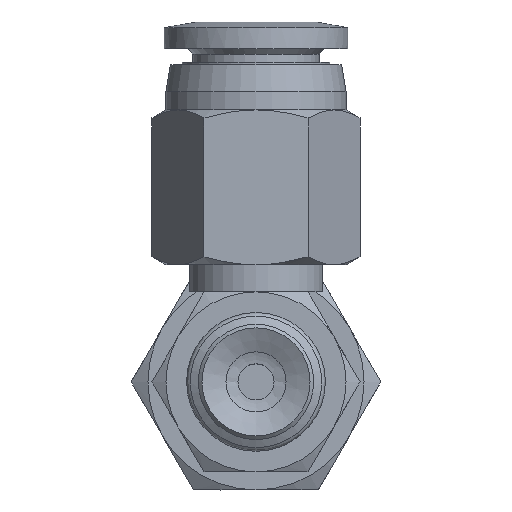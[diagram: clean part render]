
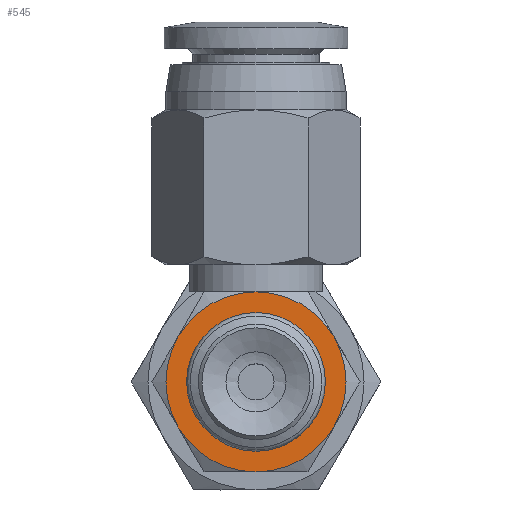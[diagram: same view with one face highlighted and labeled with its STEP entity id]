
A CAD part, front view. The second image highlights one B-rep face of the part: STEP entity #545.
In plain terms, the highlighted planar face has unit normal (0, -1, 0).
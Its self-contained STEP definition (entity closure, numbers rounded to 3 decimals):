
#545=ADVANCED_FACE('',(#831,#832),#833,.T.);
#831=FACE_BOUND('',#1239,.T.);
#832=FACE_OUTER_BOUND('',#1240,.T.);
#833=PLANE('',#1241);
#1239=EDGE_LOOP('',(#2301));
#1240=EDGE_LOOP('',(#2302,#2303,#2304,#2305,#2306,#2307));
#1241=AXIS2_PLACEMENT_3D('',#2308,#2309,#2310);
#2301=ORIENTED_EDGE('',*,*,#2922,.F.);
#2302=ORIENTED_EDGE('',*,*,#2875,.T.);
#2303=ORIENTED_EDGE('',*,*,#2869,.T.);
#2304=ORIENTED_EDGE('',*,*,#2924,.T.);
#2305=ORIENTED_EDGE('',*,*,#2933,.T.);
#2306=ORIENTED_EDGE('',*,*,#2853,.T.);
#2307=ORIENTED_EDGE('',*,*,#2910,.T.);
#2308=CARTESIAN_POINT('',(2.0,0.,0.0));
#2309=DIRECTION('',(0.0,-1.0,0.0));
#2310=DIRECTION('',(0.0,0.0,-1.0));
#2853=EDGE_CURVE('',#3200,#3214,#3216,.T.);
#2869=EDGE_CURVE('',#3232,#3243,#3245,.T.);
#2875=EDGE_CURVE('',#3246,#3232,#3255,.T.);
#2910=EDGE_CURVE('',#3214,#3246,#3315,.T.);
#2922=EDGE_CURVE('',#3334,#3334,#3335,.T.);
#2924=EDGE_CURVE('',#3243,#3217,#3337,.T.);
#2933=EDGE_CURVE('',#3217,#3200,#3349,.T.);
#3200=VERTEX_POINT('',#3982);
#3214=VERTEX_POINT('',#4008);
#3216=CIRCLE('',#4012,5.0);
#3217=VERTEX_POINT('',#4013);
#3232=VERTEX_POINT('',#4039);
#3243=VERTEX_POINT('',#4060);
#3245=CIRCLE('',#4064,5.0);
#3246=VERTEX_POINT('',#4065);
#3255=CIRCLE('',#4083,5.0);
#3315=CIRCLE('',#4221,5.0);
#3334=VERTEX_POINT('',#4248);
#3335=CIRCLE('',#4249,2.0);
#3337=CIRCLE('',#4253,5.0);
#3349=CIRCLE('',#4269,5.0);
#3982=CARTESIAN_POINT('',(-4.33,0.,2.5));
#4008=CARTESIAN_POINT('',(-4.33,0.0,-2.5));
#4012=AXIS2_PLACEMENT_3D('',#4911,#4912,#4913);
#4013=CARTESIAN_POINT('',(0.0,0.0,5.0));
#4039=CARTESIAN_POINT('',(4.33,0.0,-2.5));
#4060=CARTESIAN_POINT('',(4.33,0.0,2.5));
#4064=AXIS2_PLACEMENT_3D('',#4923,#4924,#4925);
#4065=CARTESIAN_POINT('',(0.0,0.0,-5.0));
#4083=AXIS2_PLACEMENT_3D('',#4927,#4928,#4929);
#4221=AXIS2_PLACEMENT_3D('',#4979,#4980,#4981);
#4248=CARTESIAN_POINT('',(0.0,0.,-2.0));
#4249=AXIS2_PLACEMENT_3D('',#5000,#5001,#5002);
#4253=AXIS2_PLACEMENT_3D('',#5003,#5004,#5005);
#4269=AXIS2_PLACEMENT_3D('',#5023,#5024,#5025);
#4911=CARTESIAN_POINT('',(0.0,0.,0.0));
#4912=DIRECTION('',(0.0,-1.0,0.0));
#4913=DIRECTION('',(0.0,0.0,-1.0));
#4923=CARTESIAN_POINT('',(0.0,0.,0.0));
#4924=DIRECTION('',(0.0,-1.0,0.0));
#4925=DIRECTION('',(0.0,0.0,-1.0));
#4927=CARTESIAN_POINT('',(0.0,0.,0.0));
#4928=DIRECTION('',(0.0,-1.0,0.0));
#4929=DIRECTION('',(0.0,0.0,-1.0));
#4979=CARTESIAN_POINT('',(0.0,0.,0.0));
#4980=DIRECTION('',(0.0,-1.0,0.0));
#4981=DIRECTION('',(0.0,0.0,-1.0));
#5000=CARTESIAN_POINT('',(0.0,0.,0.0));
#5001=DIRECTION('',(0.0,-1.0,0.0));
#5002=DIRECTION('',(0.0,0.0,-1.0));
#5003=CARTESIAN_POINT('',(0.0,0.,0.0));
#5004=DIRECTION('',(0.0,-1.0,0.0));
#5005=DIRECTION('',(0.0,0.0,-1.0));
#5023=CARTESIAN_POINT('',(0.0,0.,0.0));
#5024=DIRECTION('',(0.0,-1.0,0.0));
#5025=DIRECTION('',(0.0,0.0,-1.0));
